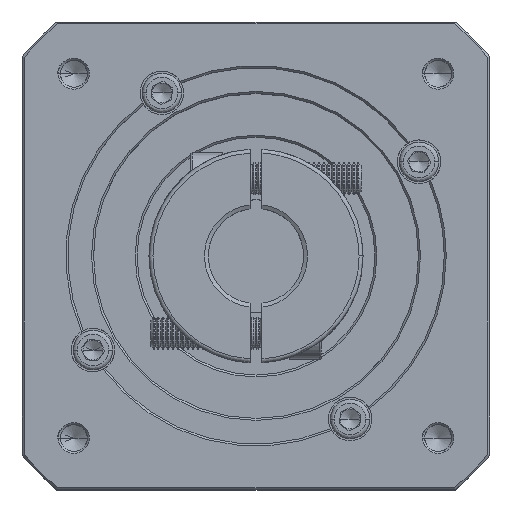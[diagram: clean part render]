
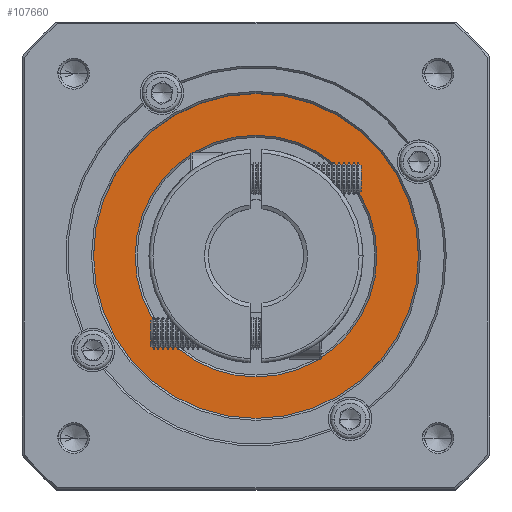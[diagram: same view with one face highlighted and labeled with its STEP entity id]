
A CAD part, top view. The second image highlights one B-rep face of the part: STEP entity #107660.
In plain terms, the highlighted planar face has unit normal (0, 0, 1).
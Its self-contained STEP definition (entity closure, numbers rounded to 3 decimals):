
#1103 = EDGE_CURVE ( 'NONE', #58936, #110099, #117312, .T. ) ;
#2107 = CARTESIAN_POINT ( 'NONE',  ( 28.096, 90.323, 36.003 ) ) ;
#2603 = FACE_OUTER_BOUND ( 'NONE', #98419, .T. ) ;
#3894 = DIRECTION ( 'NONE',  ( 1., 0., 0. ) ) ;
#4755 = EDGE_CURVE ( 'NONE', #110099, #58936, #78945, .T. ) ;
#5414 = DIRECTION ( 'NONE',  ( 0., 0., 1. ) ) ;
#15658 = AXIS2_PLACEMENT_3D ( 'NONE', #116885, #60426, #3894 ) ;
#19794 = CIRCLE ( 'NONE', #15658, 41. ) ;
#22561 = CARTESIAN_POINT ( 'NONE',  ( 69.096, 90.323, 36.003 ) ) ;
#32001 = DIRECTION ( 'NONE',  ( 0., -1., 0. ) ) ;
#47420 = DIRECTION ( 'NONE',  ( 0., 0., 1. ) ) ;
#47451 = EDGE_CURVE ( 'NONE', #55694, #51075, #66253, .T. ) ;
#47670 = AXIS2_PLACEMENT_3D ( 'NONE', #103875, #47420, #113409 ) ;
#47707 = AXIS2_PLACEMENT_3D ( 'NONE', #110684, #54237, #120140 ) ;
#51075 = VERTEX_POINT ( 'NONE', #2107 ) ;
#53649 = EDGE_CURVE ( 'NONE', #51075, #55694, #19794, .T. ) ;
#54237 = DIRECTION ( 'NONE',  ( 0., 0., -1. ) ) ;
#55694 = VERTEX_POINT ( 'NONE', #119108 ) ;
#56396 = ORIENTED_EDGE ( 'NONE', *, *, #53649, .T. ) ;
#56527 = PLANE ( 'NONE',  #47670 ) ;
#58936 = VERTEX_POINT ( 'NONE', #76653 ) ;
#60426 = DIRECTION ( 'NONE',  ( 0., 0., 1. ) ) ;
#61430 = AXIS2_PLACEMENT_3D ( 'NONE', #22561, #88560, #32001 ) ;
#61959 = CARTESIAN_POINT ( 'NONE',  ( 69.096, 90.323, 36.003 ) ) ;
#66253 = CIRCLE ( 'NONE', #108847, 41. ) ;
#67490 = ORIENTED_EDGE ( 'NONE', *, *, #1103, .T. ) ;
#71441 = DIRECTION ( 'NONE',  ( 1., 0., 0. ) ) ;
#74944 = FACE_BOUND ( 'NONE', #89525, .T. ) ;
#76653 = CARTESIAN_POINT ( 'NONE',  ( 69.096, 59.823, 36.003 ) ) ;
#78438 = ORIENTED_EDGE ( 'NONE', *, *, #4755, .T. ) ;
#78945 = CIRCLE ( 'NONE', #47707, 30.5 ) ;
#88560 = DIRECTION ( 'NONE',  ( 0., 0., -1. ) ) ;
#89525 = EDGE_LOOP ( 'NONE', ( #67490, #78438 ) ) ;
#98419 = EDGE_LOOP ( 'NONE', ( #120409, #56396 ) ) ;
#103840 = CARTESIAN_POINT ( 'NONE',  ( 69.096, 120.823, 36.003 ) ) ;
#103875 = CARTESIAN_POINT ( 'NONE',  ( 69.096, 90.323, 36.003 ) ) ;
#107660 = ADVANCED_FACE ( 'NONE', ( #2603, #74944 ), #56527, .T. ) ;
#108847 = AXIS2_PLACEMENT_3D ( 'NONE', #61959, #5414, #71441 ) ;
#110099 = VERTEX_POINT ( 'NONE', #103840 ) ;
#110684 = CARTESIAN_POINT ( 'NONE',  ( 69.096, 90.323, 36.003 ) ) ;
#113409 = DIRECTION ( 'NONE',  ( 1., 0., 0. ) ) ;
#116885 = CARTESIAN_POINT ( 'NONE',  ( 69.096, 90.323, 36.003 ) ) ;
#117312 = CIRCLE ( 'NONE', #61430, 30.5 ) ;
#119108 = CARTESIAN_POINT ( 'NONE',  ( 110.096, 90.323, 36.003 ) ) ;
#120140 = DIRECTION ( 'NONE',  ( 0., -1., 0. ) ) ;
#120409 = ORIENTED_EDGE ( 'NONE', *, *, #47451, .T. ) ;
